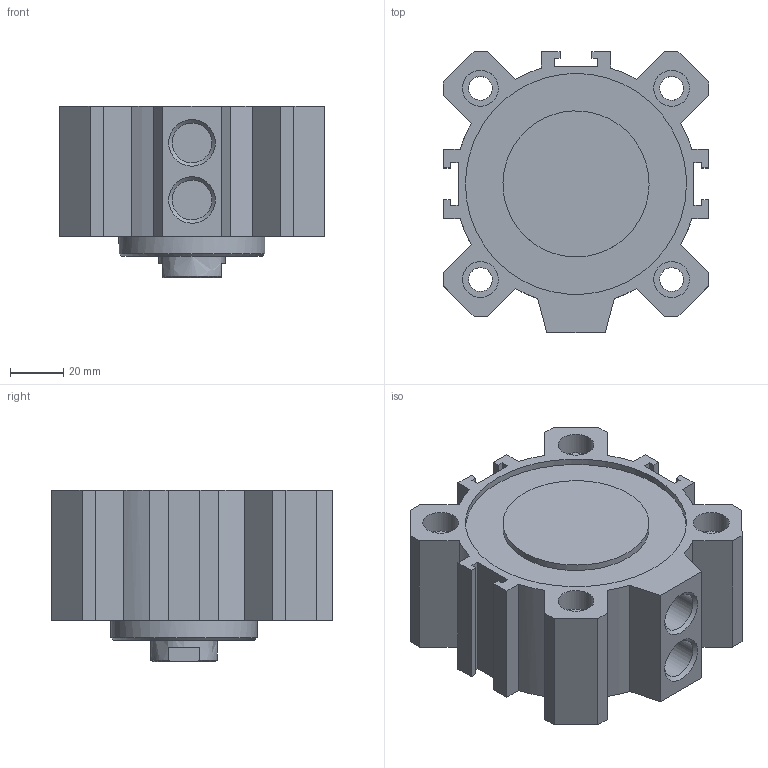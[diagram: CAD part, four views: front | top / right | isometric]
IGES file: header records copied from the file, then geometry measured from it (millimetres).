
Global section: file name: 1511_80_0000; native system: Autodesk Inventor 2014; preprocessor: unknown; author: A. Manieri; date: 20160824.143647; units: millimetre
Bounding box: 100 x 106 x 64.5 mm (x, y, z)
Volume: 398852 mm3; surface area: 85785.8 mm2
Topology: 2 solids, 2 shells, 119 faces, 307 edges, 210 vertices
Faces by surface type: bspline 119
